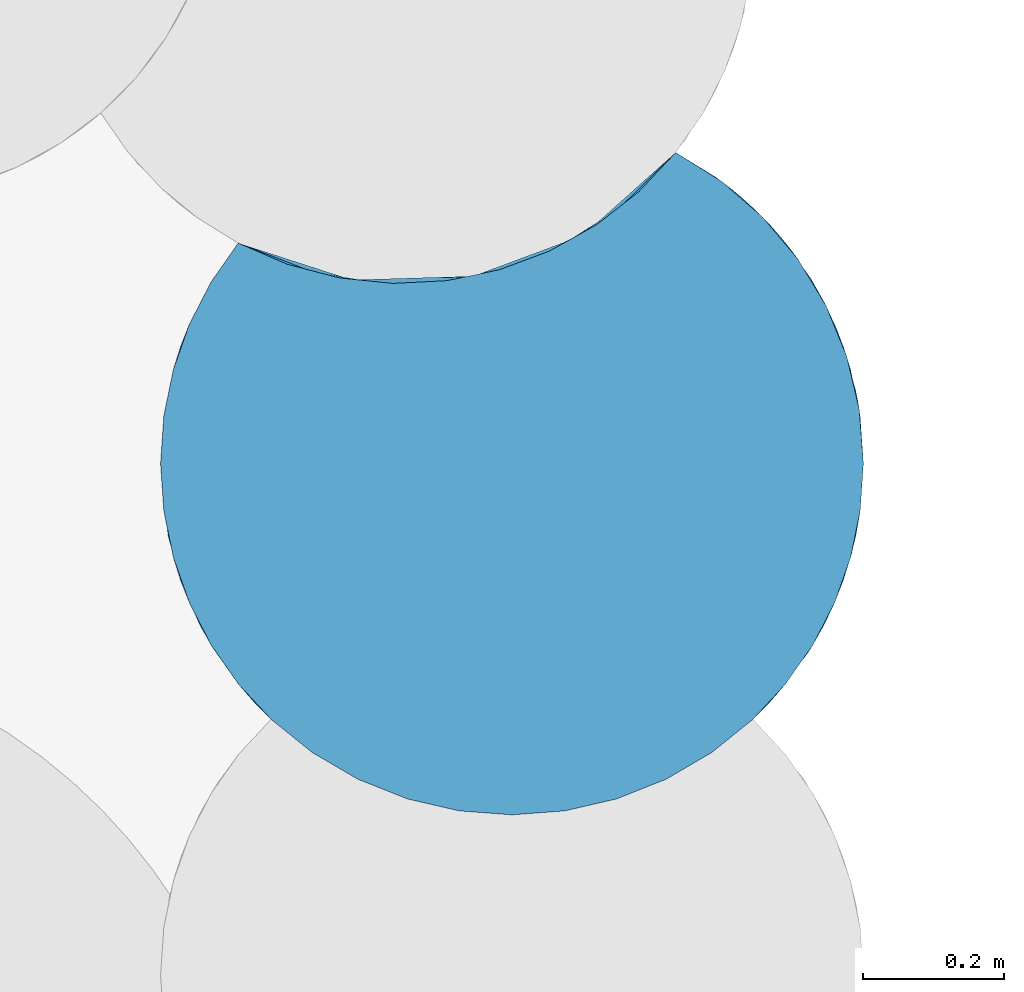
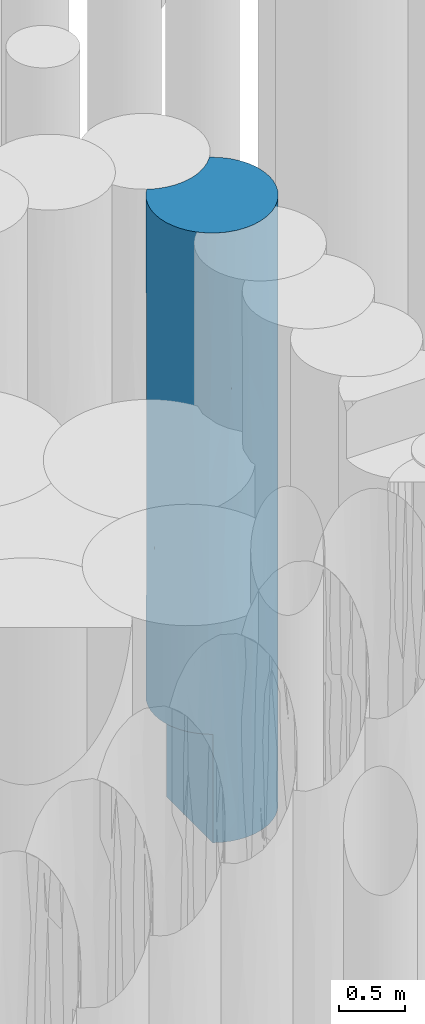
# One storey, part 46 of 104: 1 pile.
"""IFC2X3 building model written with IfcOpenShell, lengths in millimetres."""

from ifc_helpers import new_model, entity, si_unit, converted_unit, derived_unit, direction, frame, origin, place, context, subcontext, project, spatial, faceted_brep, source, transform, mapped, material, element, save


model = new_model("IFC2X3")

# Units and contexts
model_context = context("Model", 3, precision=0.01, world=origin(), true_north=direction((6.12303176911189e-17, 1.0)))
body_context = subcontext(model_context, "Body", "Model", "MODEL_VIEW")
ifc_project = project(units=[si_unit("LENGTHUNIT", "METRE", prefix="MILLI"), si_unit("AREAUNIT", "SQUARE_METRE", prefix="MILLI"), si_unit("VOLUMEUNIT", "CUBIC_METRE"), converted_unit("PLANEANGLEUNIT", "DEGREE", entity("IfcRatioMeasure", 0.0174532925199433), si_unit("PLANEANGLEUNIT", "RADIAN"), dimensions=[0, 0, 0, 0, 0, 0, 0]), si_unit("MASSUNIT", "GRAM", prefix="KILO"), derived_unit("MASSDENSITYUNIT", [(si_unit("MASSUNIT", "GRAM", prefix="KILO"), 1), (si_unit("LENGTHUNIT", "METRE"), -3)]), derived_unit("MOMENTOFINERTIAUNIT", [(si_unit("LENGTHUNIT", "METRE"), 4)]), si_unit("TIMEUNIT", "SECOND"), si_unit("FREQUENCYUNIT", "HERTZ"), si_unit("THERMODYNAMICTEMPERATUREUNIT", "DEGREE_CELSIUS"), derived_unit("THERMALTRANSMITTANCEUNIT", [(si_unit("MASSUNIT", "GRAM", prefix="KILO"), 1), (si_unit("THERMODYNAMICTEMPERATUREUNIT", "KELVIN"), -1), (si_unit("TIMEUNIT", "SECOND"), -3)]), derived_unit("VOLUMETRICFLOWRATEUNIT", [(si_unit("LENGTHUNIT", "METRE"), 3), (si_unit("TIMEUNIT", "SECOND"), -1)]), si_unit("ELECTRICCURRENTUNIT", "AMPERE"), si_unit("ELECTRICVOLTAGEUNIT", "VOLT"), si_unit("POWERUNIT", "WATT"), si_unit("FORCEUNIT", "NEWTON", prefix="KILO"), si_unit("ILLUMINANCEUNIT", "LUX"), si_unit("LUMINOUSFLUXUNIT", "LUMEN"), si_unit("LUMINOUSINTENSITYUNIT", "CANDELA"), derived_unit("USERDEFINED", [(si_unit("MASSUNIT", "GRAM", prefix="KILO"), -1), (si_unit("LENGTHUNIT", "METRE"), -2), (si_unit("TIMEUNIT", "SECOND"), 3), (si_unit("LUMINOUSFLUXUNIT", "LUMEN"), 1)]), derived_unit("LINEARVELOCITYUNIT", [(si_unit("LENGTHUNIT", "METRE"), 1), (si_unit("TIMEUNIT", "SECOND"), -1)]), si_unit("PRESSUREUNIT", "PASCAL"), derived_unit("USERDEFINED", [(si_unit("LENGTHUNIT", "METRE"), -2), (si_unit("MASSUNIT", "GRAM", prefix="KILO"), 1), (si_unit("TIMEUNIT", "SECOND"), -2)]), derived_unit("LINEARFORCEUNIT", [(si_unit("MASSUNIT", "GRAM", prefix="KILO"), 1), (si_unit("LENGTHUNIT", "METRE"), 1), (si_unit("TIMEUNIT", "SECOND"), -2), (si_unit("LENGTHUNIT", "METRE"), -1)]), derived_unit("PLANARFORCEUNIT", [(si_unit("MASSUNIT", "GRAM", prefix="KILO"), 1), (si_unit("LENGTHUNIT", "METRE"), 1), (si_unit("TIMEUNIT", "SECOND"), -2), (si_unit("LENGTHUNIT", "METRE"), -2)])], contexts=[model_context])

# Site, building, storey
site_placement = place(None, origin())
site = spatial("IfcSite", under=ifc_project, at=site_placement, Name="Theater aan de Parade", CompositionType="ELEMENT")
building_placement = place(site_placement, origin())
building = spatial("IfcBuilding", under=site, at=building_placement, Name="Theater aan de Parade", CompositionType="ELEMENT")
storey_placement = place(building_placement, frame((0.0, 0.0, -5520.0)))
storey = spatial("IfcBuildingStorey", under=building, at=storey_placement, Name="-2 kelder", CompositionType="ELEMENT", Elevation=-5520.0)

# Pile
ifc_material = material(Name="00_PBT_MAT_grout")
shared_shape = source(origin(), body_context, "Body", "Brep", [
    faceted_brep([(682.182782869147, 888.374674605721, 0.0), (734.491013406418, 944.042527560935, 0.0), (792.230698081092, 908.450343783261, 0.0), (844.625107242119, 865.367910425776, 0.0), (890.706440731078, 815.589696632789, 0.0), (929.627034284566, 760.030584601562, 0.0), (960.670373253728, 699.711530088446, 0.0), (983.264084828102, 635.741293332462, 0.0), (996.99024662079, 569.299181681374, 0.0), (1001.59527223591, 501.595272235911, 0.0), (996.982363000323, 433.833702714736, 0.0), (983.232797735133, 367.336961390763, 0.0), (960.601026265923, 303.318400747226, 0.0), (929.506379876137, 242.960232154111, 0.0), (890.523168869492, 187.37386745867, 0.0), (844.367328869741, 137.587565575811, 0.0), (789.900252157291, 93.0854944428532, 0.0), (729.725628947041, 56.6721998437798, 0.0), (665.036786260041, 29.0628696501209, 0.0), (597.113268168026, 10.803755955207, 0.0), (527.298587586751, 2.25636970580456, 0.0), (456.973729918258, 3.5903345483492, 0.0), (387.529915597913, 14.7800152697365, 0.0), (320.34218923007, 35.6045857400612, 0.0), (256.737142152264, 65.6543403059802, 0.0), (256.737142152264, 765.451534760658, 0.0), (332.735104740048, 757.746308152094, 0.0), (409.019889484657, 761.70767799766, 0.0), (483.810990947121, 777.243184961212, 0.0), (555.362766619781, 803.990226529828, 0.0), (622.005180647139, 841.324520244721, 0.0), (962.380447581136, 695.700970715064, 3218.22477814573), (990.670491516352, 605.544441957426, 2368.2311482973), (946.172872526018, 730.398150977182, 2309.39002450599), (927.020979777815, 764.29846476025, 1003.74081580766), (973.053462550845, 668.110060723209, 1217.88928221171), (868.510901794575, 841.261168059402, 1470.62650796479), (734.491013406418, 944.042527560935, 1561.5384474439), (811.500272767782, 893.971227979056, 3590.76885518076), (869.800854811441, 839.862398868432, 2656.86814153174), (734.491013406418, 944.042527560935, 3123.0760776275), (1001.59527223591, 501.595272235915, 1561.53772529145), (991.361994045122, 602.236010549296, 3590.76885119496), (964.436342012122, 690.746386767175, 4191.58857384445), (992.949035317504, 594.177557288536, 4601.22670352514), (830.265101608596, 878.392489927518, 4616.44419736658), (897.936967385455, 806.412037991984, 4719.06613398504), (884.553887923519, 823.064864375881, 3825.31510035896), (800.069190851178, 902.73529754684, 5620.0), (858.483255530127, 851.782318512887, 5620.0), (734.491013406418, 944.04252756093, 2810.0), (734.491013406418, 944.042527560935, 4058.46318707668), (1001.59527223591, 501.595272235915, 5620.0), (1001.59527223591, 501.595272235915, 4058.46227470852), (948.381847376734, 726.054079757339, 5620.0), (977.705682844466, 654.300468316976, 5620.0), (1001.59527223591, 501.595272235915, 3123.07545058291), (995.586751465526, 578.87669593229, 5620.0), (908.320076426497, 792.412970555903, 5620.0), (734.491013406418, 944.042527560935, 5620.0), (734.491013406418, 944.042527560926, 4215.0), (75.6274737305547, 239.771983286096, 1995.61399229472), (30.1805830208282, 334.957369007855, 2218.27442105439), (42.5824247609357, 303.334822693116, 1000.0), (134.88277774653, 161.710076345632, 2418.55345061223), (112.651413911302, 187.39362508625, 1000.0), (158.80670766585, 137.59527223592, 1000.0), (720.545942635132, 52.0837552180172, 5620.0), (753.846008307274, 69.8898562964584, 4632.57729967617), (785.707284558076, 90.1583214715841, 5620.0), (205.55656057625, 98.6547292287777, 1000.0), (230.643976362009, 81.3746215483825, 2134.89297890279), (422.054809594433, 7.96249900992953, 1451.97849466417), (346.510097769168, 26.2547746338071, 890.802674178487), (463.858644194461, 3.02135905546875, 2888.34534531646), (335.305702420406, 30.0575972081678, 2719.3493512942), (562.356411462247, 5.30092010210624, 1266.29474004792), (6.20734057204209, 433.839850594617, 1000.0), (1.5952722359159, 501.595272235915, 2561.53770843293), (1.5952722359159, 501.595272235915, 1000.0), (946.079419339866, 272.61089946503, 1043.5794793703), (800.820323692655, 101.01523206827, 2100.83103257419), (868.292389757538, 161.69348641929, 1387.65589207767), (868.29238979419, 161.693486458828, 2809.98987631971), (760.454010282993, 73.8194504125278, 1100.89175136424), (973.004901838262, 334.9430561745, 1936.13925481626), (985.208818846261, 374.638832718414, 1004.44881837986), (256.737142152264, 65.6543403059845, 1000.0), (112.644025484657, 187.402771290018, 5620.0), (134.87878151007, 161.714388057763, 4196.65892270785), (158.806707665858, 137.595272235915, 5620.0), (352.795268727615, 24.2499475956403, 5620.0), (389.245844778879, 14.3811446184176, 4188.02464063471), (426.337278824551, 7.29148464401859, 5620.0), (249.344536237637, 69.8898562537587, 4479.12567170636), (217.483259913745, 90.1583214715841, 5620.0), (73.6725420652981, 242.979462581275, 1000.0), (922.593400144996, 231.853587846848, 2115.32147684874), (19.9543975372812, 367.348976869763, 1000.0), (1.5952722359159, 501.595272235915, 5620.0), (1.5952722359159, 501.595272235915, 4123.07541686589), (6.20826767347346, 433.833072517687, 5620.0), (30.1799661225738, 334.959114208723, 4401.71203002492), (502.471540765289, 1.59604008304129, 2022.39135488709), (868.311763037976, 161.714388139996, 4232.3426859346), (792.130237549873, 94.668455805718, 3561.93124791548), (57.1018841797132, 272.628838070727, 3309.99400258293), (73.1041314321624, 243.922335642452, 4207.1244588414), (42.5806424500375, 303.338949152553, 5620.0), (19.9546104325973, 367.348213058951, 5620.0), (230.643976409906, 81.3746215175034, 3303.80572417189), (960.609902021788, 303.338949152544, 5620.0), (929.522999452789, 242.987731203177, 5620.0), (946.091901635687, 272.635130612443, 4676.41921033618), (959.029264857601, 299.718719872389, 2919.64207956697), (73.6675450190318, 242.987731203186, 5620.0), (596.943864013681, 10.7708168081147, 2804.93339199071), (539.331900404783, 3.02135906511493, 4273.08668055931), (722.454643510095, 53.018480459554, 2969.07538106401), (576.853265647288, 7.29148464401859, 5620.0), (665.238504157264, 29.1326889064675, 4728.7430145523), (282.644601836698, 52.0837552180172, 5620.0), (973.010578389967, 334.959114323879, 3903.08946802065), (991.556587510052, 401.906207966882, 2715.85143927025), (317.862121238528, 36.5768540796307, 1755.52061088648), (12.4038606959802, 398.194291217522, 3331.8912946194), (697.867280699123, 41.7286625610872, 2048.61973065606), (664.567992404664, 28.9009815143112, 1130.20477478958), (991.238840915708, 400.357059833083, 4676.41592103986), (983.235934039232, 367.348213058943, 5620.0), (996.982276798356, 433.833072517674, 5620.0), (152.551743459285, 143.588826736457, 3307.61325341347), (501.595272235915, 1.5952722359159, 5620.0), (926.234759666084, 237.623103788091, 3739.11688153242), (844.383836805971, 137.595272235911, 5620.0), (650.395275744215, 24.2499475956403, 5620.0), (890.546518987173, 187.402771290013, 5620.0), (685.996518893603, 36.8413801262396, 3849.22576669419), (682.134511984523, 888.330601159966, 5620.0), (621.896333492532, 841.252115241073, 5620.0), (555.18485184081, 803.907768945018, 5620.0), (483.559787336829, 777.17067637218, 5620.0), (408.695740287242, 761.665953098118, 5620.0), (332.343038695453, 757.756100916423, 5620.0), (256.286815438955, 765.53253251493, 5620.0), (182.305271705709, 784.813434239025, 5620.0), (112.128102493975, 815.148016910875, 5620.0), (73.3378797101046, 759.656516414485, 5620.0), (42.3904770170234, 699.410731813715, 5620.0), (19.8679128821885, 635.530895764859, 5620.0), (6.18549903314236, 569.190809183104, 5620.0), (6.18479981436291, 569.185684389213, 1000.0), (19.8649125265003, 635.52010389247, 1000.0), (42.3840709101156, 699.395860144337, 1000.0), (73.3274256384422, 759.639166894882, 1000.0), (112.128102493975, 815.148016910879, 1000.0), (182.521611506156, 784.739031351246, 1000.0), (256.737142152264, 765.451534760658, 1000.0), (273.775261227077, 762.69766716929, 2478.11045313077), (568.898398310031, 810.515655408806, 910.318258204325), (359.298267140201, 757.799072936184, 918.318655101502), (652.993808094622, 863.698710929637, 1005.50625277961), (673.189549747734, 880.358914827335, 2150.38357296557), (309.482674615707, 758.860046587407, 4793.61421390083), (446.424542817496, 767.985327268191, 4328.76335446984), (589.255408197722, 821.303004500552, 3952.66856375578), (652.916561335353, 863.638327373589, 4675.12337754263), (671.85354139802, 879.200836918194, 3752.442655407), (294.166076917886, 760.188509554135, 3952.66856333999), (446.424542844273, 767.985327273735, 2990.51486005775), (112.128102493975, 815.148016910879, 2496.92458574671), (218.926984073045, 773.756888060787, 4675.12337719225), (613.024759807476, 835.486863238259, 2879.52260057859), (446.712554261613, 768.045064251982, 1415.4875992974), (589.397985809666, 821.382848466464, 1806.02183252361), (529.949456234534, 793.049776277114, 2515.19771736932), (199.145716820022, 779.348921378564, 3787.8211799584), (575.72633637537, 814.000457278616, 4793.61421408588), (112.128102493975, 815.148016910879, 4058.46229287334), (30.0416873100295, 667.839720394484, 2525.78588522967), (30.0462416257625, 667.852638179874, 4094.2016154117)], [[[0, 1, 2, 3, 4, 5, 6, 7, 8, 9, 10, 11, 12, 13, 14, 15, 16, 17, 18, 19, 20, 21, 22, 23, 24, 25, 26, 27, 28, 29, 30]], [[31, 32, 33]], [[34, 6, 5]], [[34, 35, 6]], [[8, 7, 35]], [[33, 35, 34]], [[34, 4, 36]], [[2, 1, 37]], [[38, 39, 40]], [[41, 9, 8]], [[42, 43, 44]], [[45, 46, 47]], [[2, 36, 3]], [[36, 4, 3]], [[47, 43, 31]], [[37, 36, 2]], [[6, 35, 7]], [[45, 48, 49]], [[39, 37, 50, 40]], [[38, 45, 47]], [[40, 51, 38]], [[52, 53, 44]], [[39, 33, 36]], [[42, 44, 53]], [[54, 55, 43]], [[53, 56, 42]], [[44, 55, 57]], [[43, 46, 54]], [[8, 35, 41]], [[46, 49, 58]], [[45, 49, 46]], [[59, 48, 45]], [[32, 35, 33]], [[45, 51, 60, 59]], [[32, 42, 56]], [[31, 43, 42]], [[56, 41, 32]], [[35, 32, 41]], [[45, 38, 51]], [[39, 38, 47]], [[39, 47, 31]], [[39, 36, 37]], [[55, 44, 43]], [[52, 44, 57]], [[32, 31, 42]], [[31, 33, 39]], [[54, 46, 58]], [[43, 47, 46]], [[4, 34, 5]], [[33, 34, 36]], [[61, 62, 63]], [[64, 65, 66]], [[67, 68, 69]], [[70, 71, 66]], [[72, 73, 21]], [[74, 75, 72]], [[19, 76, 20]], [[77, 78, 79]], [[71, 64, 66]], [[14, 13, 80]], [[21, 73, 22]], [[81, 82, 83]], [[15, 84, 16]], [[76, 21, 20]], [[85, 80, 86]], [[41, 86, 10]], [[87, 24, 23]], [[88, 89, 90]], [[91, 92, 93]], [[94, 95, 90]], [[94, 90, 89]], [[71, 70, 87]], [[63, 96, 61]], [[97, 80, 85]], [[77, 98, 62]], [[65, 64, 61]], [[99, 100, 101]], [[102, 101, 100]], [[72, 76, 103]], [[104, 68, 105]], [[102, 106, 107]], [[107, 108, 102]], [[108, 109, 102]], [[110, 94, 89]], [[111, 112, 113]], [[97, 85, 114]], [[107, 115, 108]], [[74, 116, 117]], [[81, 105, 118]], [[119, 117, 120]], [[94, 121, 95]], [[122, 114, 123]], [[91, 94, 92]], [[71, 124, 75]], [[93, 92, 117]], [[92, 94, 110]], [[16, 84, 17]], [[77, 62, 78]], [[125, 62, 106]], [[82, 84, 15]], [[84, 126, 127]], [[74, 117, 92]], [[76, 126, 116]], [[84, 127, 17]], [[14, 82, 15]], [[127, 19, 18]], [[41, 10, 9]], [[123, 41, 56]], [[113, 128, 129]], [[128, 130, 129]], [[12, 80, 13]], [[101, 102, 109]], [[71, 110, 131]], [[86, 80, 12]], [[12, 11, 86]], [[52, 130, 128]], [[125, 100, 78]], [[56, 53, 122]], [[119, 132, 117]], [[116, 126, 118]], [[84, 81, 126]], [[125, 106, 102]], [[132, 93, 117]], [[120, 68, 67]], [[71, 75, 110]], [[113, 133, 122]], [[126, 76, 127]], [[134, 69, 68]], [[67, 135, 120]], [[134, 104, 136]], [[131, 106, 64]], [[107, 88, 115]], [[133, 114, 122]], [[122, 128, 113]], [[94, 91, 121]], [[106, 62, 61]], [[113, 136, 104]], [[64, 71, 131]], [[113, 129, 111]], [[72, 124, 73]], [[75, 92, 110]], [[21, 76, 72]], [[120, 137, 68]], [[98, 63, 62]], [[14, 80, 82]], [[136, 113, 112]], [[133, 113, 104]], [[122, 53, 128]], [[52, 128, 53]], [[105, 68, 137]], [[134, 68, 104]], [[118, 105, 137]], [[83, 104, 105]], [[71, 87, 124]], [[92, 75, 74]], [[104, 83, 133]], [[83, 97, 114]], [[83, 114, 133]], [[123, 114, 85]], [[83, 82, 97]], [[80, 97, 82]], [[100, 125, 102]], [[62, 125, 78]], [[41, 123, 85]], [[122, 123, 56]], [[82, 81, 84]], [[105, 81, 83]], [[10, 86, 11]], [[41, 85, 86]], [[119, 120, 135]], [[117, 137, 120]], [[19, 127, 76]], [[17, 127, 18]], [[73, 124, 87]], [[72, 75, 124]], [[87, 23, 73]], [[22, 73, 23]], [[137, 117, 116]], [[81, 118, 126]], [[137, 116, 118]], [[116, 74, 103]], [[110, 89, 131]], [[131, 89, 107]], [[131, 107, 106]], [[107, 89, 88]], [[65, 61, 96]], [[106, 61, 64]], [[116, 103, 76]], [[74, 72, 103]], [[138, 139, 140, 141, 142, 143, 144, 145, 146, 147, 148, 149, 150, 99, 101, 109, 108, 115, 88, 90, 95, 121, 91, 93, 132, 119, 135, 67, 69, 134, 136, 112, 111, 129, 130, 52, 57, 55, 54, 58, 49, 48, 59]], [[79, 151, 152, 153, 154, 155, 156, 157, 87, 70, 66, 65, 96, 63, 98, 77]], [[87, 157, 25, 24]], [[158, 157, 156]], [[30, 29, 159]], [[26, 25, 157]], [[160, 26, 157]], [[37, 161, 162]], [[163, 142, 164]], [[165, 166, 167]], [[168, 164, 169]], [[166, 60, 167]], [[155, 170, 156]], [[163, 171, 144]], [[144, 171, 145]], [[172, 167, 50]], [[161, 0, 30]], [[171, 163, 168]], [[28, 27, 173]], [[160, 173, 27]], [[60, 166, 59]], [[174, 173, 175]], [[176, 171, 168]], [[140, 139, 177]], [[163, 143, 142]], [[158, 169, 173]], [[50, 162, 172]], [[59, 166, 138]], [[161, 30, 159]], [[141, 164, 142]], [[165, 164, 177]], [[138, 166, 139]], [[29, 28, 159]], [[177, 164, 141]], [[165, 177, 166]], [[174, 161, 159]], [[158, 176, 168]], [[169, 158, 168]], [[146, 171, 178]], [[161, 37, 1]], [[169, 164, 165]], [[0, 161, 1]], [[174, 175, 172]], [[145, 171, 146]], [[178, 171, 176]], [[165, 167, 172]], [[167, 60, 51, 40, 50]], [[169, 165, 175]], [[162, 174, 172]], [[174, 162, 161]], [[37, 162, 50]], [[176, 170, 178]], [[158, 156, 170]], [[176, 158, 170]], [[158, 160, 157]], [[159, 173, 174]], [[173, 159, 28]], [[166, 177, 139]], [[141, 140, 177]], [[168, 163, 164]], [[143, 163, 144]], [[172, 175, 165]], [[169, 175, 173]], [[26, 160, 27]], [[173, 160, 158]], [[154, 153, 179]], [[180, 78, 100]], [[170, 155, 154]], [[148, 147, 180]], [[149, 180, 150]], [[152, 179, 153]], [[151, 79, 78]], [[147, 178, 180]], [[180, 179, 78]], [[151, 179, 152]], [[100, 99, 150]], [[154, 179, 170]], [[178, 179, 180]], [[178, 170, 179]], [[149, 148, 180]], [[150, 180, 100]], [[78, 179, 151]], [[147, 146, 178]]]),
])
pile_placement = place(storey_placement, frame((38948.2628578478, 25884.7721311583, -3840.0)))
element("IfcPile", 1, at=pile_placement, inside=storey, material=ifc_material, Name="17_PBT_SFO_grondkering_rond:Ø1000 (grondkering)", ObjectType="17_PBT_SFO_grondkering_rond:Ø1000 (grondkering)", PredefinedType="NOTDEFINED", context=body_context, shape_type="MappedRepresentation", body=[
    mapped(shared_shape, transform((0.0, 0.0, 0.0), scale=1.0)),
])

save(model, "model.ifc")
